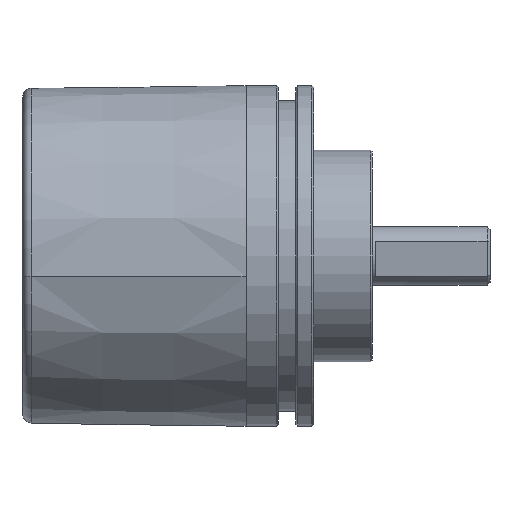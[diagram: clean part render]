
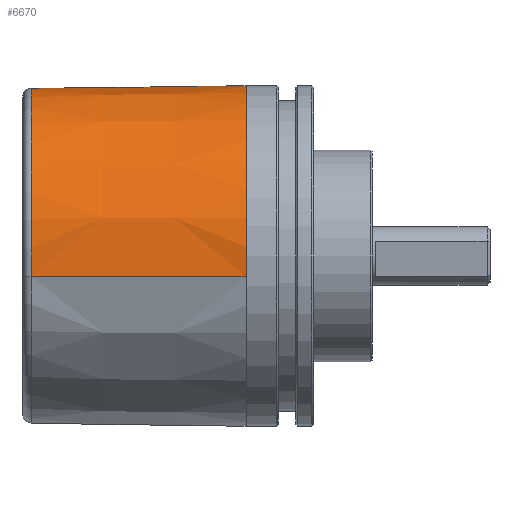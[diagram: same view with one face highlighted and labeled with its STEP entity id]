
A CAD part, front view. The second image highlights one B-rep face of the part: STEP entity #6670.
In plain terms, the highlighted conical face has half-angle 0.75 degrees and reference radius 29 mm.
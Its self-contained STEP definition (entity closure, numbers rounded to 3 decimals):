
#1423 = CARTESIAN_POINT ( 'NONE',  ( -6.441, 20.498, 6.121 ) ) ;
#1864 = CARTESIAN_POINT ( 'NONE',  ( -6.441, 16.197, 18.106 ) ) ;
#1938 = DIRECTION ( 'NONE',  ( 0., 0.993, 0.122 ) ) ;
#1939 = DIRECTION ( 'NONE',  ( 1., 0., 0. ) ) ;
#1940 = CARTESIAN_POINT ( 'NONE',  ( -6.441, -8.157, 2.603 ) ) ;
#1941 = AXIS2_PLACEMENT_3D ( 'NONE', #1940, #1939, #1938 ) ;
#1942 = CIRCLE ( 'NONE', #1941, 28.869 ) ;
#2086 = DIRECTION ( 'NONE',  ( 0., 0.993, 0.122 ) ) ;
#2087 = DIRECTION ( 'NONE',  ( -1., 0., 0. ) ) ;
#2088 = CARTESIAN_POINT ( 'NONE',  ( 3.54, -8.157, 2.603 ) ) ;
#2089 = AXIS2_PLACEMENT_3D ( 'NONE', #2088, #2087, #2086 ) ;
#2090 = CIRCLE ( 'NONE', #2089, 29. ) ;
#2091 = CARTESIAN_POINT ( 'NONE',  ( -9.441, 13.977, 21.076 ) ) ;
#2891 = DIRECTION ( 'NONE',  ( 0., -0.993, -0.122 ) ) ;
#2892 = DIRECTION ( 'NONE',  ( 1., 0., 0. ) ) ;
#2893 = CARTESIAN_POINT ( 'NONE',  ( 3.54, -8.157, 2.603 ) ) ;
#2894 = AXIS2_PLACEMENT_3D ( 'NONE', #2893, #2892, #2891 ) ;
#2895 = CONICAL_SURFACE ( 'NONE', #2894, 29., 0.013 ) ;
#2926 = CARTESIAN_POINT ( 'NONE',  ( -8.577, 14.091, 20.958 ) ) ;
#2927 = CARTESIAN_POINT ( 'NONE',  ( -8.998, 14.006, 21.051 ) ) ;
#2928 = CARTESIAN_POINT ( 'NONE',  ( -9.219, 13.981, 21.076 ) ) ;
#2929 = CARTESIAN_POINT ( 'NONE',  ( -9.441, 13.977, 21.076 ) ) ;
#2930 = CARTESIAN_POINT ( 'NONE',  ( -32.98, 13.565, 21.088 ) ) ;
#2931 = CARTESIAN_POINT ( 'NONE',  ( -30.133, 13.615, 21.086 ) ) ;
#2932 = CARTESIAN_POINT ( 'NONE',  ( -27.286, 13.665, 21.085 ) ) ;
#2933 = CARTESIAN_POINT ( 'NONE',  ( -24.438, 13.715, 21.084 ) ) ;
#2934 = CARTESIAN_POINT ( 'NONE',  ( -20.439, 13.785, 21.082 ) ) ;
#2935 = CARTESIAN_POINT ( 'NONE',  ( -16.44, 13.855, 21.08 ) ) ;
#2936 = CARTESIAN_POINT ( 'NONE',  ( -12.44, 13.925, 21.078 ) ) ;
#2937 = CARTESIAN_POINT ( 'NONE',  ( -11.44, 13.943, 21.077 ) ) ;
#2938 = CARTESIAN_POINT ( 'NONE',  ( -10.441, 13.96, 21.077 ) ) ;
#2939 = CARTESIAN_POINT ( 'NONE',  ( -9.441, 13.977, 21.076 ) ) ;
#2940 = B_SPLINE_CURVE_WITH_KNOTS ( 'NONE', 3,
 ( #2929, #2928, #2927, #2926, #3081, #3080, #3079, #3078, #3077, #3076, #3075, #3074, #3073, #3072, #3071, #3070 ),
 .UNSPECIFIED., .F., .F.,
 ( 4, 2, 2, 2, 2, 2, 2, 4 ),
 ( 0., 0.001, 0.001, 0.002, 0.003, 0.003, 0.004, 0.005 ),
 .UNSPECIFIED. ) ;
#2941 = B_SPLINE_CURVE_WITH_KNOTS ( 'NONE', 3,
 ( #2939, #2938, #2937, #2936, #2935, #2934, #2933, #2932, #2931, #2930 ),
 .UNSPECIFIED., .F., .F.,
 ( 4, 3, 3, 4 ),
 ( 0., 0.003, 0.015, 0.024 ),
 .UNSPECIFIED. ) ;
#3043 = FACE_OUTER_BOUND ( 'NONE', #6671, .T. ) ;
#3070 = CARTESIAN_POINT ( 'NONE',  ( -6.441, 16.197, 18.106 ) ) ;
#3071 = CARTESIAN_POINT ( 'NONE',  ( -6.441, 15.96, 18.478 ) ) ;
#3072 = CARTESIAN_POINT ( 'NONE',  ( -6.51, 15.721, 18.834 ) ) ;
#3073 = CARTESIAN_POINT ( 'NONE',  ( -6.711, 15.358, 19.346 ) ) ;
#3074 = CARTESIAN_POINT ( 'NONE',  ( -6.794, 15.238, 19.512 ) ) ;
#3075 = CARTESIAN_POINT ( 'NONE',  ( -6.989, 15.006, 19.823 ) ) ;
#3076 = CARTESIAN_POINT ( 'NONE',  ( -7.102, 14.894, 19.971 ) ) ;
#3077 = CARTESIAN_POINT ( 'NONE',  ( -7.359, 14.678, 20.249 ) ) ;
#3078 = CARTESIAN_POINT ( 'NONE',  ( -7.505, 14.573, 20.38 ) ) ;
#3079 = CARTESIAN_POINT ( 'NONE',  ( -7.824, 14.383, 20.613 ) ) ;
#3080 = CARTESIAN_POINT ( 'NONE',  ( -7.997, 14.298, 20.716 ) ) ;
#3081 = CARTESIAN_POINT ( 'NONE',  ( -8.377, 14.15, 20.89 ) ) ;
#3094 = DIRECTION ( 'NONE',  ( 1., -0.013, -0.002 ) ) ;
#3095 = VECTOR ( 'NONE', #3094, 1000. ) ;
#3096 = CARTESIAN_POINT ( 'NONE',  ( 3.54, -36.94, -0.931 ) ) ;
#3097 = LINE ( 'NONE', #3096, #3095 ) ;
#3098 = CARTESIAN_POINT ( 'NONE',  ( 3.54, -36.94, -0.931 ) ) ;
#3117 = CARTESIAN_POINT ( 'NONE',  ( 3.54, 20.627, 6.137 ) ) ;
#3118 = DIRECTION ( 'NONE',  ( 1., 0.013, 0.002 ) ) ;
#3119 = VECTOR ( 'NONE', #3118, 1000. ) ;
#3120 = CARTESIAN_POINT ( 'NONE',  ( 3.54, 20.627, 6.137 ) ) ;
#3121 = LINE ( 'NONE', #3120, #3119 ) ;
#3146 = CARTESIAN_POINT ( 'NONE',  ( -32.98, -36.466, -0.873 ) ) ;
#3232 = DIRECTION ( 'NONE',  ( 0., 0.993, 0.122 ) ) ;
#3254 = DIRECTION ( 'NONE',  ( 1., 0., 0. ) ) ;
#3255 = CARTESIAN_POINT ( 'NONE',  ( -32.98, -8.157, 2.603 ) ) ;
#3256 = AXIS2_PLACEMENT_3D ( 'NONE', #3255, #3254, #3232 ) ;
#3257 = CIRCLE ( 'NONE', #3256, 28.522 ) ;
#3258 = CARTESIAN_POINT ( 'NONE',  ( -32.98, 13.565, 21.088 ) ) ;
#6460 = VERTEX_POINT ( 'NONE', #1423 ) ;
#6558 = VERTEX_POINT ( 'NONE', #1864 ) ;
#6560 = EDGE_CURVE ( 'NONE', #6460, #6558, #1942, .T. ) ;
#6639 = VERTEX_POINT ( 'NONE', #2091 ) ;
#6640 = ORIENTED_EDGE ( 'NONE', *, *, #6678, .F. ) ;
#6641 = ORIENTED_EDGE ( 'NONE', *, *, #6746, .F. ) ;
#6642 = ORIENTED_EDGE ( 'NONE', *, *, #6560, .T. ) ;
#6643 = EDGE_CURVE ( 'NONE', #6737, #6747, #2090, .T. ) ;
#6670 = ADVANCED_FACE ( 'NONE', ( #3043 ), #2895, .T. ) ;
#6671 = EDGE_LOOP ( 'NONE', ( #6641, #6642, #6640, #6675, #6672, #6673, #6674 ) ) ;
#6672 = ORIENTED_EDGE ( 'NONE', *, *, #6777, .T. ) ;
#6673 = ORIENTED_EDGE ( 'NONE', *, *, #6739, .T. ) ;
#6674 = ORIENTED_EDGE ( 'NONE', *, *, #6643, .T. ) ;
#6675 = ORIENTED_EDGE ( 'NONE', *, *, #6676, .T. ) ;
#6676 = EDGE_CURVE ( 'NONE', #6639, #6778, #2941, .T. ) ;
#6678 = EDGE_CURVE ( 'NONE', #6639, #6558, #2940, .T. ) ;
#6737 = VERTEX_POINT ( 'NONE', #3098 ) ;
#6739 = EDGE_CURVE ( 'NONE', #6752, #6737, #3097, .T. ) ;
#6746 = EDGE_CURVE ( 'NONE', #6460, #6747, #3121, .T. ) ;
#6747 = VERTEX_POINT ( 'NONE', #3117 ) ;
#6752 = VERTEX_POINT ( 'NONE', #3146 ) ;
#6777 = EDGE_CURVE ( 'NONE', #6778, #6752, #3257, .T. ) ;
#6778 = VERTEX_POINT ( 'NONE', #3258 ) ;
